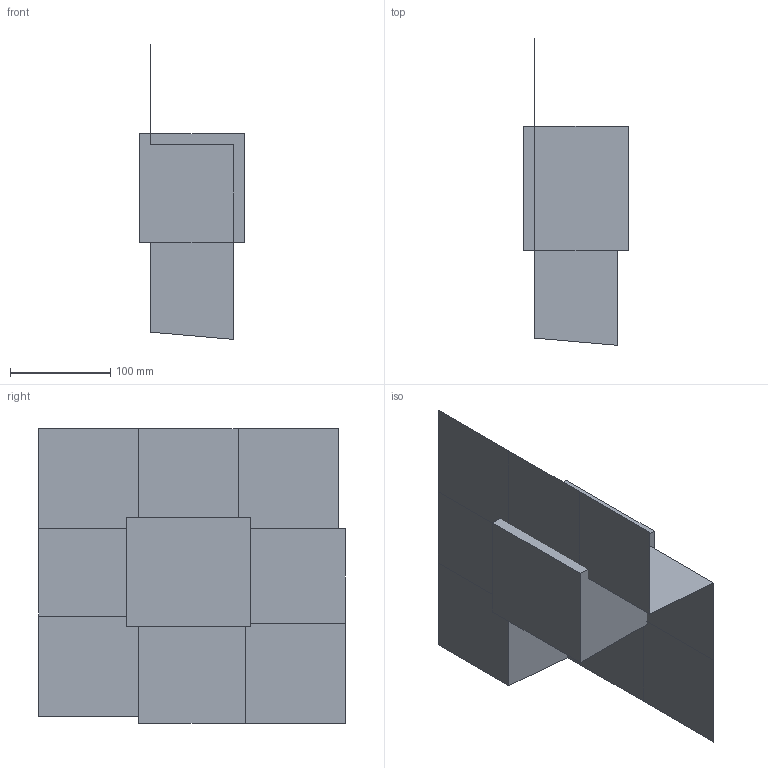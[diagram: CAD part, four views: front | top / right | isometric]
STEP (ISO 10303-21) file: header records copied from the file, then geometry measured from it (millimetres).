
FILE_DESCRIPTION(('CATIA V5 STEP Exchange'),'2;1');
FILE_NAME('C:\_Andres\UNIVERSIDAD\IQS\ASIGNATURAS\DAO\EXF\EXF-15161c\1original\Mas_Oliver_Ej02-moldes_v14.stp','2016-03-04T15:45:38+00:00',('none'),('none'),'CATIA Version 5 Release 20 SP 1 (IN-10)','CATIA V5 STEP AP203','none');
FILE_SCHEMA(('CONFIG_CONTROL_DESIGN'));
Length unit declared in the file: millimetre
Products named in the file (1): Mas_Oliver_Ej02-moldes_v14
Bounding box: 104 x 306.48 x 294.48 mm (x, y, z)
Volume: 2981848.8 mm3; surface area: 348053.7 mm2
Topology: 3 solids, 7 shells, 45 faces, 118 edges, 83 vertices
Faces by surface type: plane 41, cylinder 4
Entity records: 1101 total; most frequent: ORIENTED_EDGE 198, CARTESIAN_POINT 179, DIRECTION 147, EDGE_CURVE 83, VECTOR 73, LINE 73, VERTEX_POINT 56, EDGE_LOOP 49
